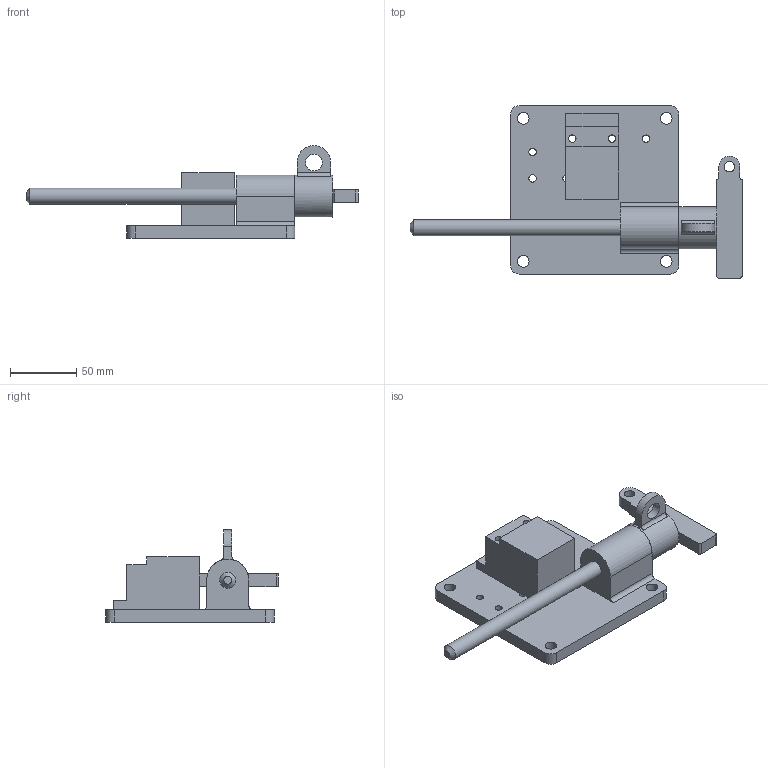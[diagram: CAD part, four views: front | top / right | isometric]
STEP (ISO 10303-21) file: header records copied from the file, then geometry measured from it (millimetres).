
FILE_DESCRIPTION(/* description */ (''),/* implementation_level */ '2;1');
FILE_NAME(/* name */ 'C:\Users\rcarver\Desktop\Tru-LOK pin\Ford-FCA\With Switch\SP12Y200TY00201.stp',/* time_stamp */ '2016-06-21T11:09:11-04:00',/* author */ ('rcarver'),/* organization */ (''),/* preprocessor_version */ 'ST-DEVELOPER v16.5',/* originating_system */ 'Autodesk Inventor 2017',/* authorisation */ '');
FILE_SCHEMA (('AUTOMOTIVE_DESIGN { 1 0 10303 214 3 1 1 }'));
Length unit declared in the file: millimetre
Products named in the file (1): SP12Y200TY00201
Bounding box: 250.62 x 130.18 x 69.85 mm (x, y, z)
Volume: 342518.2 mm3; surface area: 73359.7 mm2
Topology: 3 solids, 3 shells, 69 faces, 193 edges, 132 vertices
Faces by surface type: plane 37, cylinder 31, cone 1
Full cylindrical faces by diameter (mm): 5.588 x2, 5.59 x6, 7.94 x1, 8.74 x4, 12 x1, 12.7 x1, 31.75 x1
Entity records: 2196 total; most frequent: DIRECTION 368, CARTESIAN_POINT 346, ORIENTED_EDGE 320, EDGE_CURVE 160, AXIS2_PLACEMENT_3D 138, EDGE_LOOP 116, VERTEX_POINT 116, LINE 92
